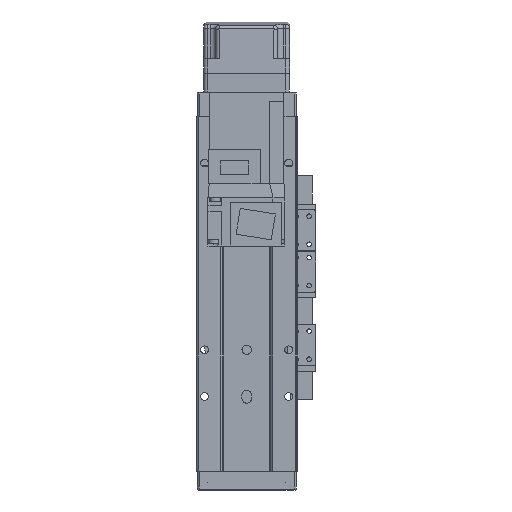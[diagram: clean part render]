
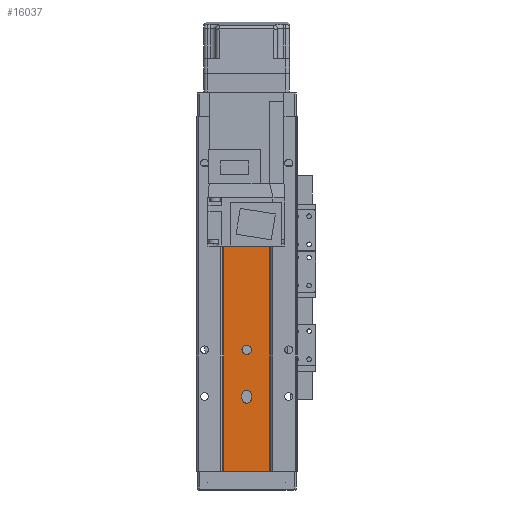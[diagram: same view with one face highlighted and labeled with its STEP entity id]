
A CAD part, front view. The second image highlights one B-rep face of the part: STEP entity #16037.
In plain terms, the highlighted planar face has unit normal (0, -1, 0).
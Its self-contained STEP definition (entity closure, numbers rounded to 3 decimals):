
#55 = CARTESIAN_POINT ( 'NONE',  ( -2.5, 1.5, -149. ) ) ;
#156 = DIRECTION ( 'NONE',  ( 0., 0., 1. ) ) ;
#1070 = DIRECTION ( 'NONE',  ( 0., 0., 1. ) ) ;
#1391 = DIRECTION ( 'NONE',  ( 0., 0., -1. ) ) ;
#1410 = CIRCLE ( 'NONE', #20275, 2.5 ) ;
#1675 = LINE ( 'NONE', #25644, #29228 ) ;
#1757 = EDGE_CURVE ( 'NONE', #27805, #19348, #29912, .T. ) ;
#2168 = AXIS2_PLACEMENT_3D ( 'NONE', #7860, #10762, #30684 ) ;
#2433 = CARTESIAN_POINT ( 'NONE',  ( 12.293, 1.5, -190. ) ) ;
#2456 = DIRECTION ( 'NONE',  ( 1., 0., 0. ) ) ;
#2825 = DIRECTION ( 'NONE',  ( 1., 0., 0. ) ) ;
#3134 = FACE_BOUND ( 'NONE', #35657, .T. ) ;
#3571 = VERTEX_POINT ( 'NONE', #18793 ) ;
#3804 = EDGE_CURVE ( 'NONE', #24133, #13468, #23453, .T. ) ;
#4014 = ORIENTED_EDGE ( 'NONE', *, *, #1757, .F. ) ;
#4387 = CARTESIAN_POINT ( 'NONE',  ( 12.293, 1.5, -190. ) ) ;
#5344 = ORIENTED_EDGE ( 'NONE', *, *, #7133, .F. ) ;
#5411 = AXIS2_PLACEMENT_3D ( 'NONE', #2433, #20018, #2825 ) ;
#5849 = CARTESIAN_POINT ( 'NONE',  ( 0., 1.5, -151. ) ) ;
#6727 = LINE ( 'NONE', #35900, #37417 ) ;
#6831 = VECTOR ( 'NONE', #15503, 1000. ) ;
#7133 = EDGE_CURVE ( 'NONE', #35345, #13435, #1410, .T. ) ;
#7143 = ORIENTED_EDGE ( 'NONE', *, *, #12061, .F. ) ;
#7406 = VECTOR ( 'NONE', #13279, 1000. ) ;
#7860 = CARTESIAN_POINT ( 'NONE',  ( 0., 1.5, -25. ) ) ;
#8450 = ORIENTED_EDGE ( 'NONE', *, *, #22254, .F. ) ;
#9252 = ORIENTED_EDGE ( 'NONE', *, *, #24168, .F. ) ;
#9336 = ORIENTED_EDGE ( 'NONE', *, *, #25862, .F. ) ;
#9532 = DIRECTION ( 'NONE',  ( 0., -1., 0. ) ) ;
#10025 = AXIS2_PLACEMENT_3D ( 'NONE', #10937, #25312, #2456 ) ;
#10263 = EDGE_LOOP ( 'NONE', ( #32365, #9336, #25926, #34363 ) ) ;
#10551 = CARTESIAN_POINT ( 'NONE',  ( 12.293, 1.5, 0. ) ) ;
#10762 = DIRECTION ( 'NONE',  ( 0., -1., 0. ) ) ;
#10887 = EDGE_LOOP ( 'NONE', ( #12939, #19018 ) ) ;
#10937 = CARTESIAN_POINT ( 'NONE',  ( 0., 1.5, -125. ) ) ;
#10977 = CIRCLE ( 'NONE', #10025, 2.5 ) ;
#11268 = EDGE_CURVE ( 'NONE', #24915, #3571, #10977, .T. ) ;
#11754 = ORIENTED_EDGE ( 'NONE', *, *, #30734, .F. ) ;
#12061 = EDGE_CURVE ( 'NONE', #19348, #19643, #24428, .T. ) ;
#12187 = EDGE_LOOP ( 'NONE', ( #7143, #4014, #9252, #8450 ) ) ;
#12796 = CARTESIAN_POINT ( 'NONE',  ( -12.293, 1.5, 0. ) ) ;
#12939 = ORIENTED_EDGE ( 'NONE', *, *, #15478, .F. ) ;
#13267 = LINE ( 'NONE', #19236, #7406 ) ;
#13279 = DIRECTION ( 'NONE',  ( 1., 0., 0. ) ) ;
#13435 = VERTEX_POINT ( 'NONE', #27689 ) ;
#13468 = VERTEX_POINT ( 'NONE', #10551 ) ;
#13802 = VERTEX_POINT ( 'NONE', #29545 ) ;
#13950 = PLANE ( 'NONE',  #5411 ) ;
#14104 = CARTESIAN_POINT ( 'NONE',  ( 2.5, 1.5, -151. ) ) ;
#15478 = EDGE_CURVE ( 'NONE', #3571, #24915, #15905, .T. ) ;
#15503 = DIRECTION ( 'NONE',  ( 0., 0., 1. ) ) ;
#15905 = CIRCLE ( 'NONE', #21862, 2.5 ) ;
#16037 = ADVANCED_FACE ( 'NONE', ( #26160, #20780, #3134, #16729 ), #13950, .T. ) ;
#16729 = FACE_OUTER_BOUND ( 'NONE', #10263, .T. ) ;
#16783 = CARTESIAN_POINT ( 'NONE',  ( -12.293, 1.5, -190. ) ) ;
#17633 = DIRECTION ( 'NONE',  ( 1., 0., 0. ) ) ;
#18180 = DIRECTION ( 'NONE',  ( 0., -1., 0. ) ) ;
#18628 = CARTESIAN_POINT ( 'NONE',  ( 0., 1.5, -125. ) ) ;
#18793 = CARTESIAN_POINT ( 'NONE',  ( 2.5, 1.5, -125. ) ) ;
#19018 = ORIENTED_EDGE ( 'NONE', *, *, #11268, .F. ) ;
#19236 = CARTESIAN_POINT ( 'NONE',  ( 12.293, 1.5, -190. ) ) ;
#19348 = VERTEX_POINT ( 'NONE', #20971 ) ;
#19643 = VERTEX_POINT ( 'NONE', #14104 ) ;
#19703 = CIRCLE ( 'NONE', #2168, 2.5 ) ;
#20018 = DIRECTION ( 'NONE',  ( 0., -1., 0. ) ) ;
#20275 = AXIS2_PLACEMENT_3D ( 'NONE', #32273, #18180, #35308 ) ;
#20780 = FACE_BOUND ( 'NONE', #10887, .T. ) ;
#20971 = CARTESIAN_POINT ( 'NONE',  ( -2.5, 1.5, -151. ) ) ;
#21816 = EDGE_CURVE ( 'NONE', #29461, #13468, #6727, .T. ) ;
#21862 = AXIS2_PLACEMENT_3D ( 'NONE', #18628, #30318, #24280 ) ;
#22254 = EDGE_CURVE ( 'NONE', #19643, #13802, #1675, .T. ) ;
#23090 = LINE ( 'NONE', #29563, #6831 ) ;
#23453 = LINE ( 'NONE', #31972, #34621 ) ;
#23524 = DIRECTION ( 'NONE',  ( 1., 0., 0. ) ) ;
#24133 = VERTEX_POINT ( 'NONE', #12796 ) ;
#24168 = EDGE_CURVE ( 'NONE', #13802, #27805, #34541, .T. ) ;
#24280 = DIRECTION ( 'NONE',  ( 1., 0., 0. ) ) ;
#24428 = CIRCLE ( 'NONE', #35940, 2.5 ) ;
#24915 = VERTEX_POINT ( 'NONE', #30641 ) ;
#25312 = DIRECTION ( 'NONE',  ( 0., -1., 0. ) ) ;
#25644 = CARTESIAN_POINT ( 'NONE',  ( 2.5, 1.5, -190. ) ) ;
#25862 = EDGE_CURVE ( 'NONE', #29649, #24133, #23090, .T. ) ;
#25926 = ORIENTED_EDGE ( 'NONE', *, *, #33475, .T. ) ;
#26160 = FACE_BOUND ( 'NONE', #12187, .T. ) ;
#27155 = CARTESIAN_POINT ( 'NONE',  ( 0., 1.5, -149. ) ) ;
#27689 = CARTESIAN_POINT ( 'NONE',  ( 2.5, 1.5, -25. ) ) ;
#27805 = VERTEX_POINT ( 'NONE', #55 ) ;
#28089 = VECTOR ( 'NONE', #1391, 1000. ) ;
#29228 = VECTOR ( 'NONE', #156, 1000. ) ;
#29461 = VERTEX_POINT ( 'NONE', #4387 ) ;
#29545 = CARTESIAN_POINT ( 'NONE',  ( 2.5, 1.5, -149. ) ) ;
#29563 = CARTESIAN_POINT ( 'NONE',  ( -12.293, 1.5, -190. ) ) ;
#29649 = VERTEX_POINT ( 'NONE', #16783 ) ;
#29912 = LINE ( 'NONE', #35069, #28089 ) ;
#30318 = DIRECTION ( 'NONE',  ( 0., -1., 0. ) ) ;
#30641 = CARTESIAN_POINT ( 'NONE',  ( -2.5, 1.5, -125. ) ) ;
#30684 = DIRECTION ( 'NONE',  ( 1., 0., 0. ) ) ;
#30734 = EDGE_CURVE ( 'NONE', #13435, #35345, #19703, .T. ) ;
#31789 = CARTESIAN_POINT ( 'NONE',  ( -2.5, 1.5, -25. ) ) ;
#31972 = CARTESIAN_POINT ( 'NONE',  ( 12.293, 1.5, 0. ) ) ;
#32074 = DIRECTION ( 'NONE',  ( 0., -1., 0. ) ) ;
#32273 = CARTESIAN_POINT ( 'NONE',  ( 0., 1.5, -25. ) ) ;
#32365 = ORIENTED_EDGE ( 'NONE', *, *, #3804, .F. ) ;
#33475 = EDGE_CURVE ( 'NONE', #29649, #29461, #13267, .T. ) ;
#34363 = ORIENTED_EDGE ( 'NONE', *, *, #21816, .T. ) ;
#34541 = CIRCLE ( 'NONE', #35021, 2.5 ) ;
#34621 = VECTOR ( 'NONE', #17633, 1000. ) ;
#35021 = AXIS2_PLACEMENT_3D ( 'NONE', #27155, #9532, #36016 ) ;
#35069 = CARTESIAN_POINT ( 'NONE',  ( -2.5, 1.5, -190. ) ) ;
#35308 = DIRECTION ( 'NONE',  ( 1., 0., 0. ) ) ;
#35345 = VERTEX_POINT ( 'NONE', #31789 ) ;
#35657 = EDGE_LOOP ( 'NONE', ( #11754, #5344 ) ) ;
#35900 = CARTESIAN_POINT ( 'NONE',  ( 12.293, 1.5, -190. ) ) ;
#35940 = AXIS2_PLACEMENT_3D ( 'NONE', #5849, #32074, #23524 ) ;
#36016 = DIRECTION ( 'NONE',  ( 1., 0., 0. ) ) ;
#37417 = VECTOR ( 'NONE', #1070, 1000. ) ;
